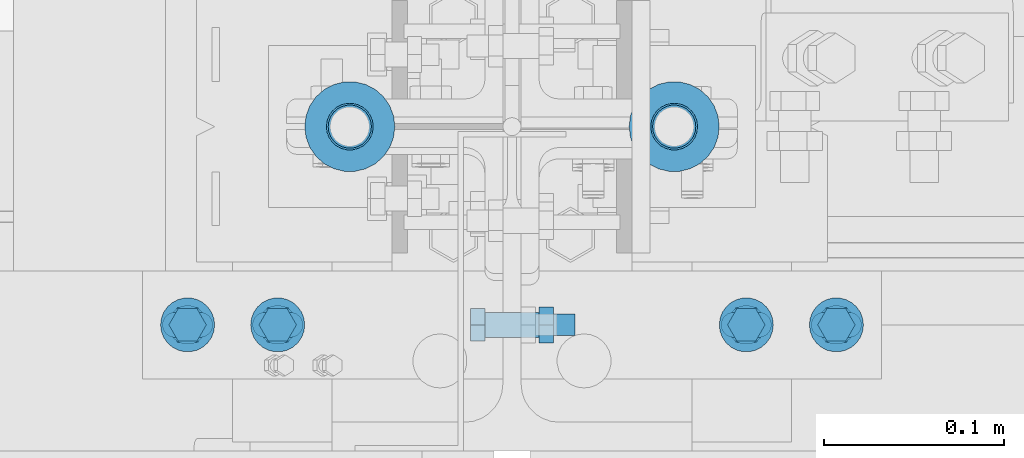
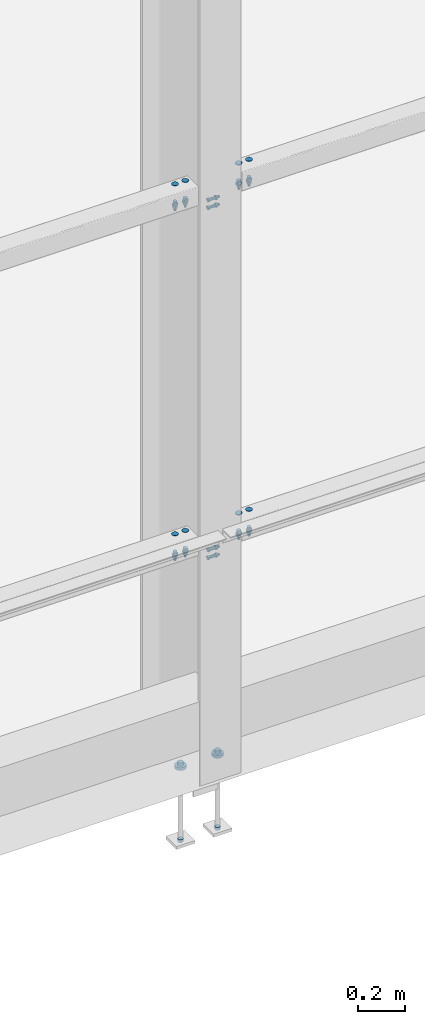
# One storey, part 308 of 362: 16 mechanical fasteners.
"""IFC2X3 building model written with IfcOpenShell, lengths in millimetres."""

from ifc_helpers import new_model, si_unit, frame, frame_2d, origin_with_axes, origin_2d_with_axis, place, context, subcontext, project, spatial, polyline, circle_curve, parameter, trimmed, segment, composite_curve, circle, outline, extrude, source, transform, mapped, material, type_object, element, save


model = new_model("IFC2X3")

# Units and contexts
model_context = context("Model", 3, precision=1e-05, world=origin_with_axes())
body_context = subcontext(model_context, "Body", "Model", "MODEL_VIEW")
ifc_project = project(units=[si_unit("LENGTHUNIT", "METRE", prefix="MILLI"), si_unit("AREAUNIT", "SQUARE_METRE"), si_unit("VOLUMEUNIT", "CUBIC_METRE"), si_unit("MASSUNIT", "GRAM", prefix="KILO"), si_unit("TIMEUNIT", "SECOND"), si_unit("PLANEANGLEUNIT", "RADIAN"), si_unit("SOLIDANGLEUNIT", "STERADIAN"), si_unit("THERMODYNAMICTEMPERATUREUNIT", "DEGREE_CELSIUS"), si_unit("LUMINOUSINTENSITYUNIT", "LUMEN")], contexts=[model_context])

# Site, building, storey
site_placement = place(None, origin_with_axes())
site = spatial("IfcSite", under=ifc_project, at=site_placement, Name="Undefined", CompositionType="ELEMENT")
building_placement = place(site_placement, origin_with_axes())
building = spatial("IfcBuilding", under=site, at=building_placement, Name="Undefined", CompositionType="ELEMENT")
storey_placement = place(building_placement, origin_with_axes())
storey = spatial("IfcBuildingStorey", under=building, at=storey_placement, Name="Undefined", CompositionType="ELEMENT", Elevation=0.0)

# Mechanical fasteners
ifc_material_1 = material(Name="6.8")
mechanical_fastener_type = type_object("IfcMechanicalFastenerType", Name="Bolt assembly")
shared_shape_1 = source(origin_with_axes(), body_context, "Body", "SweptSolid", [
    extrude(circle(Radius=15.0, at=origin_2d_with_axis()), frame((0.0, 0.0, 0.0), z_axis=(0.0, 1.0, 0.0), x_axis=(1.0, 0.0, 0.0)), (0.0, 0.0, 1.0), 4.1),
])
for number, where, z_axis, x_axis, name in (
    (1, (34100.0000020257, -110.000005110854, 2900.000034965), (0.0, 1.0, 0.0), (1.0, 0.0, 0.0), "Bolt assembly"),
    (2, (34100.0000027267, -110.000005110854, 1100.00003496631), (0.0, 1.0, 0.0), (1.0, 0.0, 0.0), "Bolt assembly"),
):
    element("IfcMechanicalFastener", number, at=place(storey_placement, frame(where, z_axis=z_axis, x_axis=x_axis)), inside=storey, type_object=mechanical_fastener_type, material=ifc_material_1, Name=name, NominalDiameter=30.0, NominalLength=4.0, context=body_context, shape_type="MappedRepresentation", body=[
        mapped(shared_shape_1, transform((0.0, 0.0, 0.0))),
        mapped(shared_shape_1, transform((49.9999999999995, 0.0, -3.63797880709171e-12))),
    ])
shared_shape_2 = source(origin_with_axes(), body_context, "Body", "SweptSolid", [
    extrude(circle(Radius=15.0, at=origin_2d_with_axis()), frame((0.0, 6.26397177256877e-05, 0.0), z_axis=(0.0, 1.0, 0.0), x_axis=(1.0, 0.0, 0.0)), (0.0, 0.0, 1.0), 4.1),
])
for number, where, z_axis, x_axis, name in (
    (3, (34460.0000020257, -110.000005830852, 2900.000034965), (0.0, -1.0, 0.0), (-1.0, 0.0, 0.0), "Bolt assembly"),
    (4, (34460.0000027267, -110.000005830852, 1100.00003496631), (0.0, -1.0, 0.0), (-1.0, 0.0, 0.0), "Bolt assembly"),
):
    element("IfcMechanicalFastener", number, at=place(storey_placement, frame(where, z_axis=z_axis, x_axis=x_axis)), inside=storey, type_object=mechanical_fastener_type, material=ifc_material_1, Name=name, NominalDiameter=30.0, NominalLength=4.0, context=body_context, shape_type="MappedRepresentation", body=[
        mapped(shared_shape_2, transform((0.0, 0.0, 0.0))),
        mapped(shared_shape_2, transform((49.9999999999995, 0.0, -3.63797880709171e-12))),
    ])
ifc_material_2 = material(Name="8.8-SB-ZINGUE")
shared_shape_3 = source(origin_with_axes(), body_context, "Body", "SweptSolid", [
    extrude(circle(Radius=7.0, at=origin_2d_with_axis()), frame((0.0, -5.10189540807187, 0.0), z_axis=(0.0, 1.0, 0.0), x_axis=(1.0, 0.0, 0.0)), (0.0, 0.0, 1.0), 10.2),
    extrude(circle(Radius=7.0, at=origin_2d_with_axis()), frame((0.0, 4.9000000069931, 0.0), z_axis=(0.0, 1.0, 0.0), x_axis=(1.0, 0.0, 0.0)), (0.0, 0.0, 1.0), 10.1),
    extrude(circle(Radius=7.0, at=origin_2d_with_axis()), frame((0.0, -14.899999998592, 0.0), z_axis=(0.0, 1.0, 0.0), x_axis=(1.0, 0.0, 0.0)), (0.0, 0.0, 1.0), 10.0),
    extrude(outline(polyline([(10.39230484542, 0.0), (5.19615242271, 9.00000000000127), (-5.19615242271, 9.00000000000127), (-10.39230484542, 0.0), (-5.19615242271, -9.00000000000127), (5.19615242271, -9.00000000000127), (10.39230484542, 0.0)])), frame((0.0, -22.919999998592, 0.0), z_axis=(0.0, 1.0, 0.0), x_axis=(1.0, 0.0, 0.0)), (0.0, 0.0, 1.0), 7.92),
    extrude(circle(Radius=6.0, at=origin_2d_with_axis()), frame((0.0, -14.999999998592, 0.0), z_axis=(0.0, 1.0, 0.0), x_axis=(1.0, 0.0, 0.0)), (0.0, 0.0, 1.0), 50.0),
    extrude(outline(polyline([(11.5008173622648, 0.0), (5.7504086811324, 9.96000000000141), (-5.7504086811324, 9.96000000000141), (-11.5008173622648, 0.0), (-5.7504086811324, -9.96000000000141), (5.7504086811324, -9.96000000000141), (11.5008173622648, 0.0)])), frame((0.0, 15.0000000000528, 0.0), z_axis=(0.0, 1.0, 0.0), x_axis=(1.0, 0.0, 0.0)), (0.0, 0.0, 1.0), 7.92),
])
mechanical_fastener_1_placement = place(storey_placement, frame((34280.0000045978, -110.000007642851, 2720.000034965), z_axis=(0.0, 1.0, 0.0), x_axis=(0.0, 0.0, 1.0)))
element("IfcMechanicalFastener", 5, at=mechanical_fastener_1_placement, inside=storey, type_object=mechanical_fastener_type, material=ifc_material_2, Name="Bolt assembly", NominalDiameter=12.0, NominalLength=50.0, context=body_context, shape_type="MappedRepresentation", body=[
    mapped(shared_shape_3, transform((0.0, 0.0, 0.0))),
    mapped(shared_shape_3, transform((40.0, 0.0, 0.0))),
])
shared_shape_4 = source(origin_with_axes(), body_context, "Body", "SweptSolid", [
    extrude(circle(Radius=7.0, at=origin_2d_with_axis()), frame((0.0, -3.89999843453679, 0.0), z_axis=(0.0, 1.0, 0.0), x_axis=(1.0, 0.0, 0.0)), (0.0, 0.0, 1.0), 4.0),
    extrude(outline(composite_curve([segment(polyline([(-7.0, 7.0), (7.0, 7.0)]), True, "CONTINUOUS"), segment(trimmed(circle_curve(frame_2d((7.0, 0.0), x_axis=(0.0, 1.0)), 7.0), [parameter(0.0)], [parameter(3.14159265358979)], False, "PARAMETER"), True, "CONTINUOUS"), segment(polyline([(7.0, -7.0), (-7.0, -7.0)]), True, "CONTINUOUS"), segment(trimmed(circle_curve(frame_2d((-7.0, 0.0), x_axis=(0.0, -1.0)), 7.0), [parameter(0.0)], [parameter(3.14159265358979)], False, "PARAMETER"), True, "DISCONTINUOUS")], self_intersect=False)), frame((0.0, -0.100011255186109, 0.0), z_axis=(0.0, 1.0, 0.0), x_axis=(1.0, 0.0, 0.0)), (0.0, 0.0, 1.0), 10.1),
    extrude(outline(polyline([(10.39230484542, 0.0), (5.19615242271, 9.00000000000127), (-5.19615242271, 9.00000000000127), (-10.39230484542, 0.0), (-5.19615242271, -9.00000000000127), (5.19615242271, -9.00000000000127), (10.39230484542, 0.0)])), frame((0.0, -11.9199984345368, 0.0), z_axis=(0.0, 1.0, 0.0), x_axis=(1.0, 0.0, 0.0)), (0.0, 0.0, 1.0), 7.92),
    extrude(circle(Radius=6.0, at=origin_2d_with_axis()), frame((0.0, -3.99999923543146, 0.0), z_axis=(0.0, 1.0, 0.0), x_axis=(1.0, 0.0, 0.0)), (0.0, 0.0, 1.0), 40.0),
    extrude(circle(Radius=10.8, at=origin_2d_with_axis()), frame((0.0, 10.0000000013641, 0.0), z_axis=(0.0, 1.0, 0.0), x_axis=(1.0, 0.0, 0.0)), (0.0, 0.0, 1.0), 3.96),
    extrude(outline(polyline([(11.5008173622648, 0.0), (5.7504086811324, 9.96000000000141), (-5.7504086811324, 9.96000000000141), (-11.5008173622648, 0.0), (-5.7504086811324, -9.96000000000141), (5.7504086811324, -9.96000000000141), (11.5008173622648, 0.0)])), frame((0.0, 13.96, 0.0), z_axis=(0.0, 1.0, 0.0), x_axis=(1.0, 0.0, 0.0)), (0.0, 0.0, 1.0), 7.92),
])
mechanical_fastener_2_placement = place(storey_placement, frame((34100.0000020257, -110.000005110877, 2800.000034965), z_axis=(0.0, 1.0, 0.0), x_axis=(1.0, 0.0, 0.0)))
element("IfcMechanicalFastener", 6, at=mechanical_fastener_2_placement, inside=storey, type_object=mechanical_fastener_type, material=ifc_material_2, Name="Bolt assembly", NominalDiameter=12.0, NominalLength=40.0, context=body_context, shape_type="MappedRepresentation", body=[
    mapped(shared_shape_4, transform((0.0, 0.0, 0.0))),
    mapped(shared_shape_4, transform((49.9999999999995, 0.0, -3.63797880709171e-12))),
])
shared_shape_5 = source(origin_with_axes(), body_context, "Body", "SweptSolid", [
    extrude(circle(Radius=7.0, at=origin_2d_with_axis()), frame((0.0, -3.89991628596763, 0.0), z_axis=(0.0, 1.0, 0.0), x_axis=(1.0, 0.0, 0.0)), (0.0, 0.0, 1.0), 4.0),
    extrude(outline(composite_curve([segment(polyline([(-7.0, 7.0), (7.0, 7.0)]), True, "CONTINUOUS"), segment(trimmed(circle_curve(frame_2d((7.0, 0.0), x_axis=(0.0, 1.0)), 7.0), [parameter(0.0)], [parameter(3.14159265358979)], False, "PARAMETER"), True, "CONTINUOUS"), segment(polyline([(7.0, -7.0), (-7.0, -7.0)]), True, "CONTINUOUS"), segment(trimmed(circle_curve(frame_2d((-7.0, 0.0), x_axis=(0.0, -1.0)), 7.0), [parameter(0.0)], [parameter(3.14159265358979)], False, "PARAMETER"), True, "DISCONTINUOUS")], self_intersect=False)), frame((0.0, -0.100011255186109, 0.0), z_axis=(0.0, 1.0, 0.0), x_axis=(1.0, 0.0, 0.0)), (0.0, 0.0, 1.0), 10.1),
    extrude(outline(polyline([(10.39230484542, 0.0), (5.19615242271, 9.00000000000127), (-5.19615242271, 9.00000000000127), (-10.39230484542, 0.0), (-5.19615242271, -9.00000000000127), (5.19615242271, -9.00000000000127), (10.39230484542, 0.0)])), frame((0.0, -11.9199162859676, 0.0), z_axis=(0.0, 1.0, 0.0), x_axis=(1.0, 0.0, 0.0)), (0.0, 0.0, 1.0), 7.92),
    extrude(circle(Radius=6.0, at=origin_2d_with_axis()), frame((0.0, -3.99991628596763, 0.0), z_axis=(0.0, 1.0, 0.0), x_axis=(1.0, 0.0, 0.0)), (0.0, 0.0, 1.0), 40.0),
    extrude(circle(Radius=10.8, at=origin_2d_with_axis()), frame((0.0, 10.0000000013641, 0.0), z_axis=(0.0, 1.0, 0.0), x_axis=(1.0, 0.0, 0.0)), (0.0, 0.0, 1.0), 3.96),
    extrude(outline(polyline([(11.5008173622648, 0.0), (5.7504086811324, 9.96000000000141), (-5.7504086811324, 9.96000000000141), (-11.5008173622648, 0.0), (-5.7504086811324, -9.96000000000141), (5.7504086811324, -9.96000000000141), (11.5008173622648, 0.0)])), frame((0.0, 13.96, 0.0), z_axis=(0.0, 1.0, 0.0), x_axis=(1.0, 0.0, 0.0)), (0.0, 0.0, 1.0), 7.92),
])
mechanical_fastener_3_placement = place(storey_placement, frame((34460.0000020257, -110.000005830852, 2800.000034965), z_axis=(0.0, -1.0, 0.0), x_axis=(-1.0, 0.0, 0.0)))
element("IfcMechanicalFastener", 7, at=mechanical_fastener_3_placement, inside=storey, type_object=mechanical_fastener_type, material=ifc_material_2, Name="Bolt assembly", NominalDiameter=12.0, NominalLength=40.0, context=body_context, shape_type="MappedRepresentation", body=[
    mapped(shared_shape_5, transform((0.0, 0.0, 0.0))),
    mapped(shared_shape_5, transform((49.9999999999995, 0.0, -3.63797880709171e-12))),
])
shared_shape_6 = source(origin_with_axes(), body_context, "Body", "SweptSolid", [
    extrude(circle(Radius=7.0, at=origin_2d_with_axis()), frame((0.0, -5.10249010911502, 0.0), z_axis=(0.0, 1.0, 0.0), x_axis=(1.0, 0.0, 0.0)), (0.0, 0.0, 1.0), 10.2),
    extrude(circle(Radius=7.0, at=origin_2d_with_axis()), frame((0.0, 4.9000000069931, 0.0), z_axis=(0.0, 1.0, 0.0), x_axis=(1.0, 0.0, 0.0)), (0.0, 0.0, 1.0), 10.1),
    extrude(circle(Radius=7.0, at=origin_2d_with_axis()), frame((0.0, -14.899999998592, 0.0), z_axis=(0.0, 1.0, 0.0), x_axis=(1.0, 0.0, 0.0)), (0.0, 0.0, 1.0), 10.0),
    extrude(outline(polyline([(10.39230484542, 0.0), (5.19615242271, 9.00000000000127), (-5.19615242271, 9.00000000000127), (-10.39230484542, 0.0), (-5.19615242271, -9.00000000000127), (5.19615242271, -9.00000000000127), (10.39230484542, 0.0)])), frame((0.0, -22.919999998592, 0.0), z_axis=(0.0, 1.0, 0.0), x_axis=(1.0, 0.0, 0.0)), (0.0, 0.0, 1.0), 7.92),
    extrude(circle(Radius=6.0, at=origin_2d_with_axis()), frame((0.0, -14.999999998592, 0.0), z_axis=(0.0, 1.0, 0.0), x_axis=(1.0, 0.0, 0.0)), (0.0, 0.0, 1.0), 50.0),
    extrude(outline(polyline([(11.5008173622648, 0.0), (5.7504086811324, 9.96000000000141), (-5.7504086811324, 9.96000000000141), (-11.5008173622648, 0.0), (-5.7504086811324, -9.96000000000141), (5.7504086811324, -9.96000000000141), (11.5008173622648, 0.0)])), frame((0.0, 15.0000000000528, 0.0), z_axis=(0.0, 1.0, 0.0), x_axis=(1.0, 0.0, 0.0)), (0.0, 0.0, 1.0), 7.92),
])
mechanical_fastener_4_placement = place(storey_placement, frame((34280.0000052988, -110.000007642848, 920.000034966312), z_axis=(0.0, 1.0, 0.0), x_axis=(0.0, 0.0, 1.0)))
element("IfcMechanicalFastener", 8, at=mechanical_fastener_4_placement, inside=storey, type_object=mechanical_fastener_type, material=ifc_material_2, Name="Bolt assembly", NominalDiameter=12.0, NominalLength=50.0, context=body_context, shape_type="MappedRepresentation", body=[
    mapped(shared_shape_6, transform((0.0, 0.0, 0.0))),
    mapped(shared_shape_6, transform((40.0, 0.0, 0.0))),
])
shared_shape_7 = source(origin_with_axes(), body_context, "Body", "SweptSolid", [
    extrude(circle(Radius=7.0, at=origin_2d_with_axis()), frame((0.0, -3.89999843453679, 0.0), z_axis=(0.0, 1.0, 0.0), x_axis=(1.0, 0.0, 0.0)), (0.0, 0.0, 1.0), 4.0),
    extrude(outline(composite_curve([segment(polyline([(-7.0, 7.0), (7.0, 7.0)]), True, "CONTINUOUS"), segment(trimmed(circle_curve(frame_2d((7.0, 0.0), x_axis=(0.0, 1.0)), 7.0), [parameter(0.0)], [parameter(3.14159265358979)], False, "PARAMETER"), True, "CONTINUOUS"), segment(polyline([(7.0, -7.0), (-7.0, -7.0)]), True, "CONTINUOUS"), segment(trimmed(circle_curve(frame_2d((-7.0, 0.0), x_axis=(0.0, -1.0)), 7.0), [parameter(0.0)], [parameter(3.14159265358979)], False, "PARAMETER"), True, "DISCONTINUOUS")], self_intersect=False)), frame((0.0, -0.100011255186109, 0.0), z_axis=(0.0, 1.0, 0.0), x_axis=(1.0, 0.0, 0.0)), (0.0, 0.0, 1.0), 10.1),
    extrude(outline(polyline([(10.39230484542, 0.0), (5.19615242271, 9.00000000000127), (-5.19615242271, 9.00000000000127), (-10.39230484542, 0.0), (-5.19615242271, -9.00000000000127), (5.19615242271, -9.00000000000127), (10.39230484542, 0.0)])), frame((0.0, -11.9199984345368, 0.0), z_axis=(0.0, 1.0, 0.0), x_axis=(1.0, 0.0, 0.0)), (0.0, 0.0, 1.0), 7.92),
    extrude(circle(Radius=6.0, at=origin_2d_with_axis()), frame((0.0, -3.99999923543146, 0.0), z_axis=(0.0, 1.0, 0.0), x_axis=(1.0, 0.0, 0.0)), (0.0, 0.0, 1.0), 40.0),
    extrude(circle(Radius=10.8, at=origin_2d_with_axis()), frame((0.0, 10.0000000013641, 0.0), z_axis=(0.0, 1.0, 0.0), x_axis=(1.0, 0.0, 0.0)), (0.0, 0.0, 1.0), 3.96),
    extrude(outline(polyline([(11.5008173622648, 0.0), (5.7504086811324, 9.96000000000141), (-5.7504086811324, 9.96000000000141), (-11.5008173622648, 0.0), (-5.7504086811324, -9.96000000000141), (5.7504086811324, -9.96000000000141), (11.5008173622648, 0.0)])), frame((0.0, 13.96, 0.0), z_axis=(0.0, 1.0, 0.0), x_axis=(1.0, 0.0, 0.0)), (0.0, 0.0, 1.0), 7.92),
])
mechanical_fastener_5_placement = place(storey_placement, frame((34100.0000027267, -110.000005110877, 1000.00003496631), z_axis=(0.0, 1.0, 0.0), x_axis=(1.0, 0.0, 0.0)))
element("IfcMechanicalFastener", 9, at=mechanical_fastener_5_placement, inside=storey, type_object=mechanical_fastener_type, material=ifc_material_2, Name="Bolt assembly", NominalDiameter=12.0, NominalLength=40.0, context=body_context, shape_type="MappedRepresentation", body=[
    mapped(shared_shape_7, transform((0.0, 0.0, 0.0))),
    mapped(shared_shape_7, transform((49.9999999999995, 0.0, -3.63797880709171e-12))),
])
shared_shape_8 = source(origin_with_axes(), body_context, "Body", "SweptSolid", [
    extrude(circle(Radius=7.0, at=origin_2d_with_axis()), frame((0.0, -3.89991628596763, 0.0), z_axis=(0.0, 1.0, 0.0), x_axis=(1.0, 0.0, 0.0)), (0.0, 0.0, 1.0), 4.0),
    extrude(outline(composite_curve([segment(polyline([(-7.0, 7.0), (7.0, 7.0)]), True, "CONTINUOUS"), segment(trimmed(circle_curve(frame_2d((7.0, 0.0), x_axis=(0.0, 1.0)), 7.0), [parameter(0.0)], [parameter(3.14159265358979)], False, "PARAMETER"), True, "CONTINUOUS"), segment(polyline([(7.0, -7.0), (-7.0, -7.0)]), True, "CONTINUOUS"), segment(trimmed(circle_curve(frame_2d((-7.0, 0.0), x_axis=(0.0, -1.0)), 7.0), [parameter(0.0)], [parameter(3.14159265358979)], False, "PARAMETER"), True, "DISCONTINUOUS")], self_intersect=False)), frame((0.0, -0.100011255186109, 0.0), z_axis=(0.0, 1.0, 0.0), x_axis=(1.0, 0.0, 0.0)), (0.0, 0.0, 1.0), 10.1),
    extrude(outline(polyline([(10.39230484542, 0.0), (5.19615242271, 9.00000000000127), (-5.19615242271, 9.00000000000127), (-10.39230484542, 0.0), (-5.19615242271, -9.00000000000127), (5.19615242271, -9.00000000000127), (10.39230484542, 0.0)])), frame((0.0, -11.9199162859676, 0.0), z_axis=(0.0, 1.0, 0.0), x_axis=(1.0, 0.0, 0.0)), (0.0, 0.0, 1.0), 7.92),
    extrude(circle(Radius=6.0, at=origin_2d_with_axis()), frame((0.0, -3.99991628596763, 0.0), z_axis=(0.0, 1.0, 0.0), x_axis=(1.0, 0.0, 0.0)), (0.0, 0.0, 1.0), 40.0),
    extrude(circle(Radius=10.8, at=origin_2d_with_axis()), frame((0.0, 10.0000000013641, 0.0), z_axis=(0.0, 1.0, 0.0), x_axis=(1.0, 0.0, 0.0)), (0.0, 0.0, 1.0), 3.96),
    extrude(outline(polyline([(11.5008173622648, 0.0), (5.7504086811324, 9.96000000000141), (-5.7504086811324, 9.96000000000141), (-11.5008173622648, 0.0), (-5.7504086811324, -9.96000000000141), (5.7504086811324, -9.96000000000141), (11.5008173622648, 0.0)])), frame((0.0, 13.96, 0.0), z_axis=(0.0, 1.0, 0.0), x_axis=(1.0, 0.0, 0.0)), (0.0, 0.0, 1.0), 7.92),
])
mechanical_fastener_6_placement = place(storey_placement, frame((34460.0000027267, -110.000005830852, 1000.00003496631), z_axis=(0.0, -1.0, 0.0), x_axis=(-1.0, 0.0, 0.0)))
element("IfcMechanicalFastener", 10, at=mechanical_fastener_6_placement, inside=storey, type_object=mechanical_fastener_type, material=ifc_material_2, Name="Bolt assembly", NominalDiameter=12.0, NominalLength=40.0, context=body_context, shape_type="MappedRepresentation", body=[
    mapped(shared_shape_8, transform((0.0, 0.0, 0.0))),
    mapped(shared_shape_8, transform((49.9999999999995, 0.0, -3.63797880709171e-12))),
])
shared_shape_9 = source(origin_with_axes(), body_context, "Body", "SweptSolid", [
    extrude(circle(Radius=25.0, at=origin_2d_with_axis()), frame((0.0, -14.999999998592, 0.0), z_axis=(0.0, 1.0, 0.0), x_axis=(1.0, 0.0, 0.0)), (0.0, 0.0, 1.0), 15.1),
])
for number, where, z_axis, x_axis, name in (
    (11, (34189.997150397, 3.76348907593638e-09, -200.000000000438), (0.0, 1.0, 0.0), (1.0, 0.0, 0.0), "Bolt assembly"),
    (12, (34369.9971503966, 3.72892827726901e-09, -200.000000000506), (0.0, -1.0, 0.0), (-1.0, 0.0, 0.0), "Bolt assembly"),
):
    element("IfcMechanicalFastener", number, at=place(storey_placement, frame(where, z_axis=z_axis, x_axis=x_axis)), inside=storey, type_object=mechanical_fastener_type, material=ifc_material_1, Name=name, NominalDiameter=30.0, NominalLength=15.0, context=body_context, shape_type="MappedRepresentation", body=[
        mapped(shared_shape_9, transform((0.0, 0.0, 0.0))),
    ])
shared_shape_10 = source(origin_with_axes(), body_context, "Body", "SweptSolid", [
    extrude(circle(Radius=13.0, at=origin_2d_with_axis()), frame((0.0, -14.999999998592, 0.0), z_axis=(0.0, 1.0, 0.0), x_axis=(1.0, 0.0, 0.0)), (0.0, 0.0, 1.0), 15.1),
])
for number, where, z_axis, x_axis, name in (
    (13, (34189.9971504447, 0.0, -185.0), (0.0, -1.0, 0.0), (-1.0, 0.0, 0.0), "Bolt assembly"),
    (14, (34369.9971504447, 0.0, -185.0), (0.0, -1.0, 0.0), (-1.0, 0.0, 0.0), "Bolt assembly"),
):
    element("IfcMechanicalFastener", number, at=place(storey_placement, frame(where, z_axis=z_axis, x_axis=x_axis)), inside=storey, type_object=mechanical_fastener_type, material=ifc_material_1, Name=name, NominalDiameter=24.0, NominalLength=15.0, context=body_context, shape_type="MappedRepresentation", body=[
        mapped(shared_shape_10, transform((0.0, 0.0, 0.0))),
    ])
shared_shape_11 = source(origin_with_axes(), body_context, "Body", "SweptSolid", [
    extrude(circle(Radius=12.0, at=origin_2d_with_axis()), frame((0.0, -14.999999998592, 0.0), z_axis=(0.0, 1.0, 0.0), x_axis=(1.0, 0.0, 0.0)), (0.0, 0.0, 1.0), 15.1),
])
for number, where, z_axis, x_axis, name in (
    (15, (34189.9971504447, 0.0, -580.0), (0.0, -1.0, 0.0), (-1.0, 0.0, 0.0), "Bolt assembly"),
    (16, (34369.9971504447, 0.0, -580.0), (0.0, -1.0, 0.0), (-1.0, 0.0, 0.0), "Bolt assembly"),
):
    element("IfcMechanicalFastener", number, at=place(storey_placement, frame(where, z_axis=z_axis, x_axis=x_axis)), inside=storey, type_object=mechanical_fastener_type, material=ifc_material_1, Name=name, NominalDiameter=22.0, NominalLength=15.0, context=body_context, shape_type="MappedRepresentation", body=[
        mapped(shared_shape_11, transform((0.0, 0.0, 0.0))),
    ])

save(model, "model.ifc")
